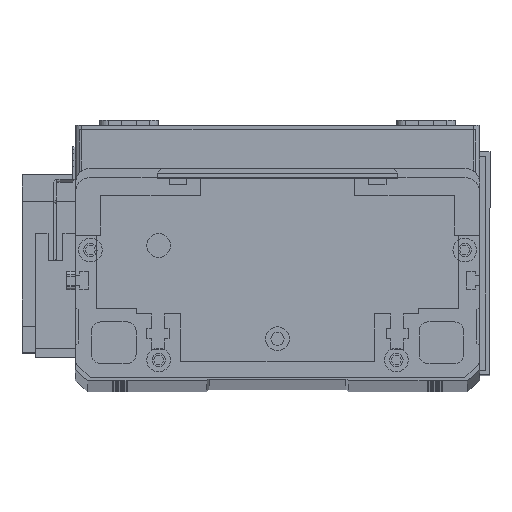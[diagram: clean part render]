
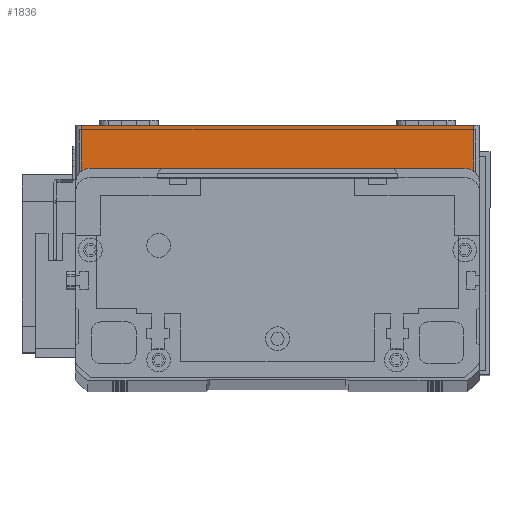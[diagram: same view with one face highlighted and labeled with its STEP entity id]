
A CAD part, top view. The second image highlights one B-rep face of the part: STEP entity #1836.
In plain terms, the highlighted planar face has unit normal (0, 0, 1) as drawn and (0, -1, 0) by its records, which use the part's own axes.
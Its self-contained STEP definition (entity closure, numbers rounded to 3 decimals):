
#167 = EDGE_CURVE ( 'NONE', #18488, #23077, #28809, .T. ) ;
#704 = FACE_OUTER_BOUND ( 'NONE', #25702, .T. ) ;
#1486 = DIRECTION ( 'NONE',  ( 1., 0., 0. ) ) ;
#1498 = CARTESIAN_POINT ( 'NONE',  ( 0., 0., 0. ) ) ;
#1792 = CARTESIAN_POINT ( 'NONE',  ( 0., 0., 19.5 ) ) ;
#1836 = ADVANCED_FACE ( 'NONE', ( #704 ), #6512, .F. ) ;
#3893 = ORIENTED_EDGE ( 'NONE', *, *, #24553, .T. ) ;
#4238 = CARTESIAN_POINT ( 'NONE',  ( 2., 0., 19.5 ) ) ;
#6389 = CARTESIAN_POINT ( 'NONE',  ( 134., 0., 19.5 ) ) ;
#6512 = PLANE ( 'NONE',  #13761 ) ;
#6762 = VERTEX_POINT ( 'NONE', #21883 ) ;
#7218 = CARTESIAN_POINT ( 'NONE',  ( 134., 0., 0. ) ) ;
#7818 = CARTESIAN_POINT ( 'NONE',  ( 134., 0., 19.5 ) ) ;
#8852 = DIRECTION ( 'NONE',  ( 0., 0., 1. ) ) ;
#9581 = LINE ( 'NONE', #1498, #26735 ) ;
#10845 = EDGE_CURVE ( 'NONE', #18488, #6762, #14974, .T. ) ;
#11171 = DIRECTION ( 'NONE',  ( 0., 0., -1. ) ) ;
#13104 = DIRECTION ( 'NONE',  ( 1., 0., 0. ) ) ;
#13747 = EDGE_CURVE ( 'NONE', #22913, #23077, #25252, .T. ) ;
#13761 = AXIS2_PLACEMENT_3D ( 'NONE', #27424, #22840, #8852 ) ;
#14974 = LINE ( 'NONE', #4238, #20457 ) ;
#15643 = DIRECTION ( 'NONE',  ( 0., 0., 1. ) ) ;
#17337 = ORIENTED_EDGE ( 'NONE', *, *, #10845, .T. ) ;
#17704 = ORIENTED_EDGE ( 'NONE', *, *, #167, .F. ) ;
#18488 = VERTEX_POINT ( 'NONE', #27287 ) ;
#20457 = VECTOR ( 'NONE', #11171, 1000. ) ;
#21883 = CARTESIAN_POINT ( 'NONE',  ( 2., 0., 0. ) ) ;
#22840 = DIRECTION ( 'NONE',  ( 0., 1., 0. ) ) ;
#22913 = VERTEX_POINT ( 'NONE', #7218 ) ;
#23077 = VERTEX_POINT ( 'NONE', #7818 ) ;
#24553 = EDGE_CURVE ( 'NONE', #6762, #22913, #9581, .T. ) ;
#25252 = LINE ( 'NONE', #6389, #25989 ) ;
#25702 = EDGE_LOOP ( 'NONE', ( #17704, #17337, #3893, #29319 ) ) ;
#25989 = VECTOR ( 'NONE', #15643, 1000. ) ;
#26735 = VECTOR ( 'NONE', #13104, 1000. ) ;
#27287 = CARTESIAN_POINT ( 'NONE',  ( 2., 0., 19.5 ) ) ;
#27424 = CARTESIAN_POINT ( 'NONE',  ( 0., 0., 19.5 ) ) ;
#28087 = VECTOR ( 'NONE', #1486, 1000. ) ;
#28809 = LINE ( 'NONE', #1792, #28087 ) ;
#29319 = ORIENTED_EDGE ( 'NONE', *, *, #13747, .T. ) ;
